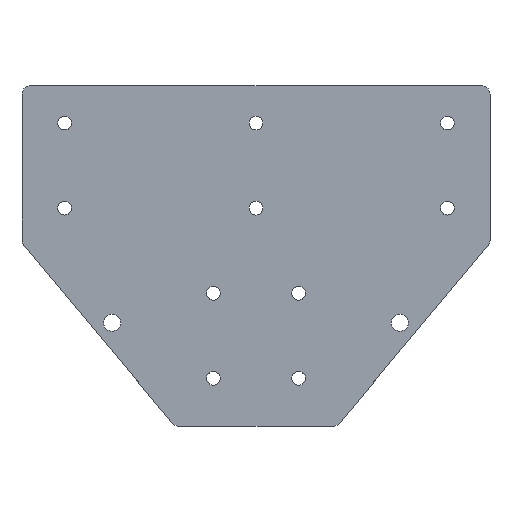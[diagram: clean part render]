
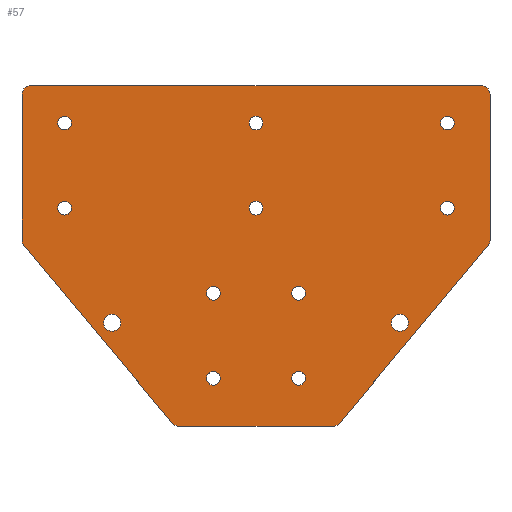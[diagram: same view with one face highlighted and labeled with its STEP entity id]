
A CAD part, top view. The second image highlights one B-rep face of the part: STEP entity #57.
In plain terms, the highlighted planar face has unit normal (0, 0, 1).
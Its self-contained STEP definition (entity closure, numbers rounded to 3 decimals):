
#57=ADVANCED_FACE('',(#313,#315,#317,#319,#321,#323,#325,#327,#329,#331,#333,#335,
#337),#339,.T.);
#313=FACE_BOUND('',#314,.T.);
#314=EDGE_LOOP('',(#560,#561,#562,#563,#564,#565,#566,#567,#568,#569,#570,#571));
#315=FACE_BOUND('',#316,.T.);
#316=EDGE_LOOP('',(#572));
#317=FACE_BOUND('',#318,.T.);
#318=EDGE_LOOP('',(#573));
#319=FACE_BOUND('',#320,.T.);
#320=EDGE_LOOP('',(#574));
#321=FACE_BOUND('',#322,.T.);
#322=EDGE_LOOP('',(#575));
#323=FACE_BOUND('',#324,.T.);
#324=EDGE_LOOP('',(#576));
#325=FACE_BOUND('',#326,.T.);
#326=EDGE_LOOP('',(#577));
#327=FACE_BOUND('',#328,.T.);
#328=EDGE_LOOP('',(#578));
#329=FACE_BOUND('',#330,.T.);
#330=EDGE_LOOP('',(#579));
#331=FACE_BOUND('',#332,.T.);
#332=EDGE_LOOP('',(#580));
#333=FACE_BOUND('',#334,.T.);
#334=EDGE_LOOP('',(#581));
#335=FACE_BOUND('',#336,.T.);
#336=EDGE_LOOP('',(#582));
#337=FACE_BOUND('',#338,.T.);
#338=EDGE_LOOP('',(#583));
#339=PLANE('',#340);
#340=AXIS2_PLACEMENT_3D('',#341,#342,#343);
#341=CARTESIAN_POINT('',(0.,0.,4.));
#342=DIRECTION('',(0.,0.,1.));
#343=DIRECTION('',(-1.,0.,0.));
#560=ORIENTED_EDGE('',*,*,#680,.T.);
#561=ORIENTED_EDGE('',*,*,#681,.T.);
#562=ORIENTED_EDGE('',*,*,#682,.T.);
#563=ORIENTED_EDGE('',*,*,#683,.T.);
#564=ORIENTED_EDGE('',*,*,#684,.T.);
#565=ORIENTED_EDGE('',*,*,#685,.T.);
#566=ORIENTED_EDGE('',*,*,#686,.T.);
#567=ORIENTED_EDGE('',*,*,#687,.T.);
#568=ORIENTED_EDGE('',*,*,#688,.T.);
#569=ORIENTED_EDGE('',*,*,#689,.T.);
#570=ORIENTED_EDGE('',*,*,#690,.T.);
#571=ORIENTED_EDGE('',*,*,#691,.T.);
#572=ORIENTED_EDGE('',*,*,#692,.T.);
#573=ORIENTED_EDGE('',*,*,#693,.T.);
#574=ORIENTED_EDGE('',*,*,#694,.T.);
#575=ORIENTED_EDGE('',*,*,#695,.T.);
#576=ORIENTED_EDGE('',*,*,#696,.T.);
#577=ORIENTED_EDGE('',*,*,#697,.T.);
#578=ORIENTED_EDGE('',*,*,#698,.T.);
#579=ORIENTED_EDGE('',*,*,#699,.T.);
#580=ORIENTED_EDGE('',*,*,#700,.T.);
#581=ORIENTED_EDGE('',*,*,#701,.T.);
#582=ORIENTED_EDGE('',*,*,#702,.T.);
#583=ORIENTED_EDGE('',*,*,#703,.T.);
#680=EDGE_CURVE('',#764,#765,#766,.T.);
#681=EDGE_CURVE('',#765,#767,#768,.T.);
#682=EDGE_CURVE('',#767,#769,#770,.T.);
#683=EDGE_CURVE('',#769,#771,#772,.T.);
#684=EDGE_CURVE('',#771,#773,#774,.T.);
#685=EDGE_CURVE('',#773,#775,#776,.T.);
#686=EDGE_CURVE('',#775,#777,#778,.T.);
#687=EDGE_CURVE('',#777,#779,#780,.T.);
#688=EDGE_CURVE('',#779,#781,#782,.T.);
#689=EDGE_CURVE('',#781,#783,#784,.T.);
#690=EDGE_CURVE('',#783,#785,#786,.T.);
#691=EDGE_CURVE('',#785,#764,#787,.T.);
#692=EDGE_CURVE('',#788,#788,#789,.F.);
#693=EDGE_CURVE('',#790,#790,#791,.F.);
#694=EDGE_CURVE('',#792,#792,#793,.F.);
#695=EDGE_CURVE('',#794,#794,#795,.F.);
#696=EDGE_CURVE('',#796,#796,#797,.F.);
#697=EDGE_CURVE('',#798,#798,#799,.F.);
#698=EDGE_CURVE('',#800,#800,#801,.F.);
#699=EDGE_CURVE('',#802,#802,#803,.F.);
#700=EDGE_CURVE('',#804,#804,#805,.F.);
#701=EDGE_CURVE('',#806,#806,#807,.F.);
#702=EDGE_CURVE('',#808,#808,#809,.F.);
#703=EDGE_CURVE('',#810,#810,#811,.F.);
#764=VERTEX_POINT('',#938);
#765=VERTEX_POINT('',#939);
#766=CIRCLE('',#940,4.);
#767=VERTEX_POINT('',#944);
#768=LINE('',#945,#946);
#769=VERTEX_POINT('',#948);
#770=CIRCLE('',#949,4.);
#771=VERTEX_POINT('',#953);
#772=LINE('',#954,#955);
#773=VERTEX_POINT('',#957);
#774=CIRCLE('',#958,4.);
#775=VERTEX_POINT('',#962);
#776=LINE('',#963,#964);
#777=VERTEX_POINT('',#966);
#778=CIRCLE('',#967,4.);
#779=VERTEX_POINT('',#971);
#780=LINE('',#972,#973);
#781=VERTEX_POINT('',#975);
#782=CIRCLE('',#976,4.);
#783=VERTEX_POINT('',#980);
#784=LINE('',#981,#982);
#785=VERTEX_POINT('',#984);
#786=CIRCLE('',#985,4.);
#787=LINE('',#989,#990);
#788=VERTEX_POINT('',#992);
#789=CIRCLE('',#993,4.);
#790=VERTEX_POINT('',#997);
#791=CIRCLE('',#998,4.);
#792=VERTEX_POINT('',#1002);
#793=CIRCLE('',#1003,3.25);
#794=VERTEX_POINT('',#1007);
#795=CIRCLE('',#1008,3.25);
#796=VERTEX_POINT('',#1012);
#797=CIRCLE('',#1013,3.25);
#798=VERTEX_POINT('',#1017);
#799=CIRCLE('',#1018,3.25);
#800=VERTEX_POINT('',#1022);
#801=CIRCLE('',#1023,3.25);
#802=VERTEX_POINT('',#1027);
#803=CIRCLE('',#1028,3.25);
#804=VERTEX_POINT('',#1032);
#805=CIRCLE('',#1033,3.25);
#806=VERTEX_POINT('',#1037);
#807=CIRCLE('',#1038,3.25);
#808=VERTEX_POINT('',#1042);
#809=CIRCLE('',#1043,3.25);
#810=VERTEX_POINT('',#1047);
#811=CIRCLE('',#1048,3.25);
#938=CARTESIAN_POINT('',(109.069,-75.1,4.));
#939=CARTESIAN_POINT('',(110.,-72.535,4.));
#940=AXIS2_PLACEMENT_3D('',#941,#942,#943);
#941=CARTESIAN_POINT('',(106.,-72.535,4.));
#942=DIRECTION('',(0.,0.,1.));
#943=DIRECTION('',(0.767,-0.641,0.));
#944=CARTESIAN_POINT('',(110.,-4.,4.));
#945=CARTESIAN_POINT('',(110.,-72.535,4.));
#946=VECTOR('',#947,1.);
#947=DIRECTION('',(0.,1.,0.));
#948=CARTESIAN_POINT('',(106.,0.,4.));
#949=AXIS2_PLACEMENT_3D('',#950,#951,#952);
#950=CARTESIAN_POINT('',(106.,-4.,4.));
#951=DIRECTION('',(0.,0.,1.));
#952=DIRECTION('',(1.,0.,0.));
#953=CARTESIAN_POINT('',(-106.,0.,4.));
#954=CARTESIAN_POINT('',(106.,0.,4.));
#955=VECTOR('',#956,1.);
#956=DIRECTION('',(-1.,0.,0.));
#957=CARTESIAN_POINT('',(-110.,-4.,4.));
#958=AXIS2_PLACEMENT_3D('',#959,#960,#961);
#959=CARTESIAN_POINT('',(-106.,-4.,4.));
#960=DIRECTION('',(0.,0.,1.));
#961=DIRECTION('',(0.,1.,0.));
#962=CARTESIAN_POINT('',(-110.,-72.535,4.));
#963=CARTESIAN_POINT('',(-110.,-4.,4.));
#964=VECTOR('',#965,1.);
#965=DIRECTION('',(0.,-1.,0.));
#966=CARTESIAN_POINT('',(-109.069,-75.1,4.));
#967=AXIS2_PLACEMENT_3D('',#968,#969,#970);
#968=CARTESIAN_POINT('',(-106.,-72.535,4.));
#969=DIRECTION('',(0.,0.,1.));
#970=DIRECTION('',(-1.,0.,0.));
#971=CARTESIAN_POINT('',(-39.299,-158.565,4.));
#972=CARTESIAN_POINT('',(-109.069,-75.1,4.));
#973=VECTOR('',#974,1.);
#974=DIRECTION('',(0.641,-0.767,0.));
#975=CARTESIAN_POINT('',(-36.23,-160.,4.));
#976=AXIS2_PLACEMENT_3D('',#977,#978,#979);
#977=CARTESIAN_POINT('',(-36.23,-156.,4.));
#978=DIRECTION('',(0.,0.,1.));
#979=DIRECTION('',(-0.767,-0.641,0.));
#980=CARTESIAN_POINT('',(36.23,-160.,4.));
#981=CARTESIAN_POINT('',(-36.23,-160.,4.));
#982=VECTOR('',#983,1.);
#983=DIRECTION('',(1.,0.,0.));
#984=CARTESIAN_POINT('',(39.299,-158.565,4.));
#985=AXIS2_PLACEMENT_3D('',#986,#987,#988);
#986=CARTESIAN_POINT('',(36.23,-156.,4.));
#987=DIRECTION('',(0.,0.,1.));
#988=DIRECTION('',(0.,-1.,0.));
#989=CARTESIAN_POINT('',(39.299,-158.565,4.));
#990=VECTOR('',#991,1.);
#991=DIRECTION('',(0.641,0.767,0.));
#992=CARTESIAN_POINT('',(67.662,-115.381,4.));
#993=AXIS2_PLACEMENT_3D('',#994,#995,#996);
#994=CARTESIAN_POINT('',(67.662,-111.381,4.));
#995=DIRECTION('',(0.,0.,1.));
#996=DIRECTION('',(0.,-1.,0.));
#997=CARTESIAN_POINT('',(-67.662,-115.381,4.));
#998=AXIS2_PLACEMENT_3D('',#999,#1000,#1001);
#999=CARTESIAN_POINT('',(-67.662,-111.381,4.));
#1000=DIRECTION('',(0.,0.,1.));
#1001=DIRECTION('',(0.,-1.,0.));
#1002=CARTESIAN_POINT('',(3.25,-17.5,4.));
#1003=AXIS2_PLACEMENT_3D('',#1004,#1005,#1006);
#1004=CARTESIAN_POINT('',(0.,-17.5,4.));
#1005=DIRECTION('',(0.,0.,1.));
#1006=DIRECTION('',(1.,0.,0.));
#1007=CARTESIAN_POINT('',(-16.75,-97.5,4.));
#1008=AXIS2_PLACEMENT_3D('',#1009,#1010,#1011);
#1009=CARTESIAN_POINT('',(-20.,-97.5,4.));
#1010=DIRECTION('',(0.,0.,1.));
#1011=DIRECTION('',(1.,0.,0.));
#1012=CARTESIAN_POINT('',(-16.75,-137.5,4.));
#1013=AXIS2_PLACEMENT_3D('',#1014,#1015,#1016);
#1014=CARTESIAN_POINT('',(-20.,-137.5,4.));
#1015=DIRECTION('',(0.,0.,1.));
#1016=DIRECTION('',(1.,0.,0.));
#1017=CARTESIAN_POINT('',(23.25,-97.5,4.));
#1018=AXIS2_PLACEMENT_3D('',#1019,#1020,#1021);
#1019=CARTESIAN_POINT('',(20.,-97.5,4.));
#1020=DIRECTION('',(0.,0.,1.));
#1021=DIRECTION('',(1.,0.,0.));
#1022=CARTESIAN_POINT('',(23.25,-137.5,4.));
#1023=AXIS2_PLACEMENT_3D('',#1024,#1025,#1026);
#1024=CARTESIAN_POINT('',(20.,-137.5,4.));
#1025=DIRECTION('',(0.,0.,1.));
#1026=DIRECTION('',(1.,0.,0.));
#1027=CARTESIAN_POINT('',(-86.75,-17.5,4.));
#1028=AXIS2_PLACEMENT_3D('',#1029,#1030,#1031);
#1029=CARTESIAN_POINT('',(-90.,-17.5,4.));
#1030=DIRECTION('',(0.,0.,1.));
#1031=DIRECTION('',(1.,0.,0.));
#1032=CARTESIAN_POINT('',(3.25,-57.5,4.));
#1033=AXIS2_PLACEMENT_3D('',#1034,#1035,#1036);
#1034=CARTESIAN_POINT('',(0.,-57.5,4.));
#1035=DIRECTION('',(0.,0.,1.));
#1036=DIRECTION('',(1.,0.,0.));
#1037=CARTESIAN_POINT('',(93.25,-17.5,4.));
#1038=AXIS2_PLACEMENT_3D('',#1039,#1040,#1041);
#1039=CARTESIAN_POINT('',(90.,-17.5,4.));
#1040=DIRECTION('',(0.,0.,1.));
#1041=DIRECTION('',(1.,0.,0.));
#1042=CARTESIAN_POINT('',(-86.75,-57.5,4.));
#1043=AXIS2_PLACEMENT_3D('',#1044,#1045,#1046);
#1044=CARTESIAN_POINT('',(-90.,-57.5,4.));
#1045=DIRECTION('',(0.,0.,1.));
#1046=DIRECTION('',(1.,0.,0.));
#1047=CARTESIAN_POINT('',(93.25,-57.5,4.));
#1048=AXIS2_PLACEMENT_3D('',#1049,#1050,#1051);
#1049=CARTESIAN_POINT('',(90.,-57.5,4.));
#1050=DIRECTION('',(0.,0.,1.));
#1051=DIRECTION('',(1.,0.,0.));
